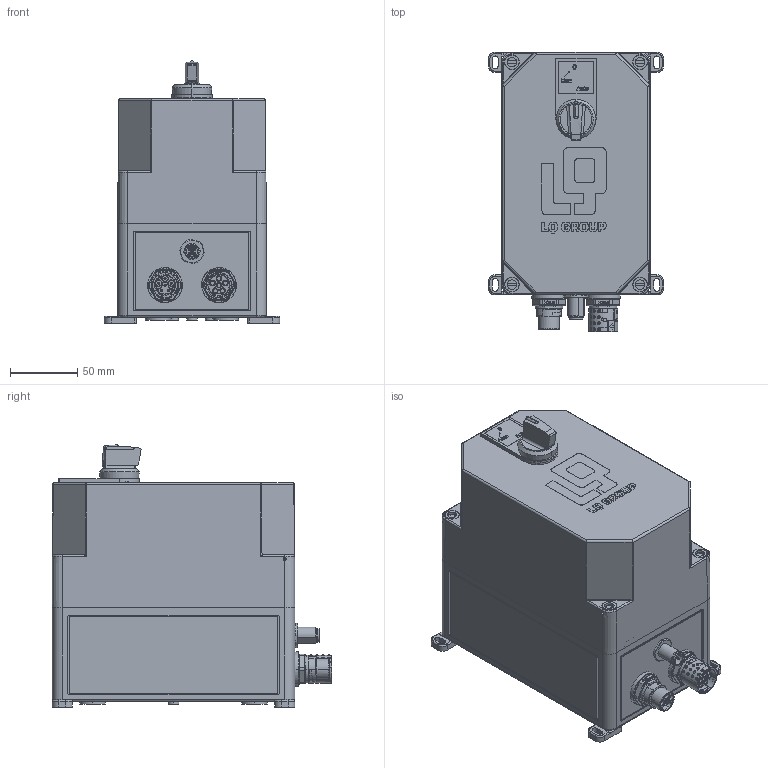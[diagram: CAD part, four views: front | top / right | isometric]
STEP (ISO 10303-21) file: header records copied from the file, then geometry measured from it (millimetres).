
FILE_DESCRIPTION (( 'STEP AP214' ), '1' );
FILE_NAME ('1162723.STEP', '2020-02-25T14:17:21', ( '' ), ( '' ), 'SwSTEP 2.0', 'SolidWorks 2019', '' );
FILE_SCHEMA (( 'AUTOMOTIVE_DESIGN' ));
Length unit declared in the file: millimetre
Products named in the file (1): 1162723
Bounding box: 130 x 207.43 x 194.55 mm (x, y, z)
Surface area: 301762.3 mm2 (no closed solid volume)
Topology: 0 solids, 24 shells, 2671 faces, 7503 edges, 4964 vertices
Faces by surface type: plane 1344, cylinder 692, bspline 428, cone 114, torus 87, sphere 6
Entity records: 136317 total; most frequent: CARTESIAN_POINT 43930, ORIENTED_EDGE 14189, DIRECTION 12270, EDGE_CURVE 7477, VERTEX_POINT 4958, AXIS2_PLACEMENT_3D 4155, LINE 3960, VECTOR 3960
